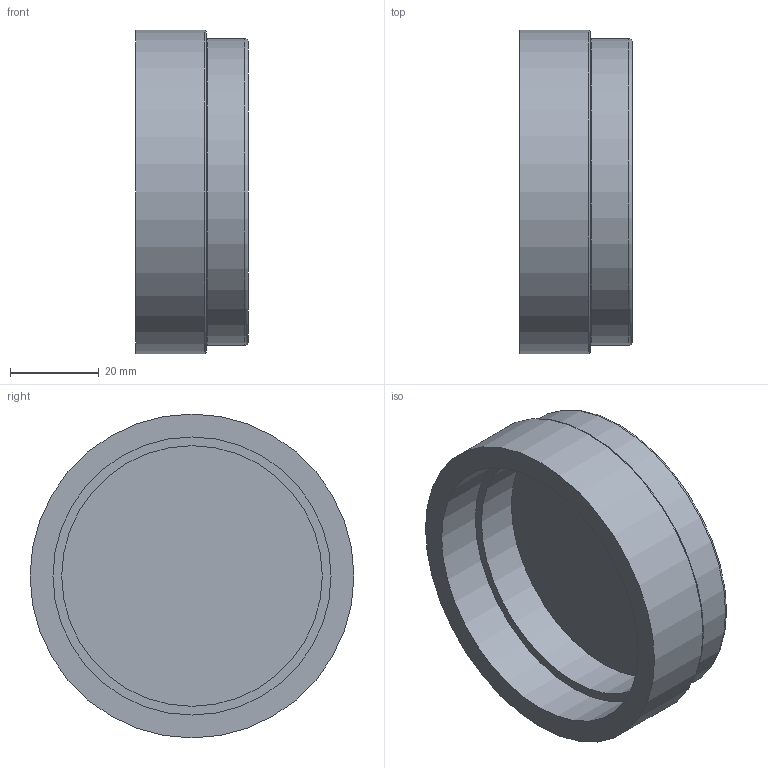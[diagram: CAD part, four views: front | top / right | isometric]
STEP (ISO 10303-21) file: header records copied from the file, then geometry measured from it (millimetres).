
FILE_DESCRIPTION(/* description */ ('VIC SS CAP No 460DX (OGS)'),/* implementation_level */ '2;1');
FILE_NAME(/* name */ 'C:\Files for Export\SS Duplex\STEP\Victaulic_SS-OGS_Cap_No 460DX (OGS)\Victaulic_SS-OGS_Cap_No 460DX (OGS)_2.5 (65).stp',/* time_stamp */ '2024-08-28T10:35:54+02:00',/* author */ ('CORINNE GRAY'),/* organization */ ('Victaulic'),/* preprocessor_version */ 'ST-DEVELOPER v18.1',/* originating_system */ 'Autodesk Inventor 2020',/* authorisation */ '');
FILE_SCHEMA (('AUTOMOTIVE_DESIGN { 1 0 10303 214 3 1 1 }'));
Length unit declared in the file: inch
Products named in the file (1): 460DX-02.5
Bounding box: 25.4 x 73.03 x 73.03 mm (x, y, z)
Volume: 43216.5 mm3; surface area: 17812.2 mm2
Topology: 1 solids, 1 shells, 12 faces, 32 edges, 25 vertices
Faces by surface type: plane 5, cylinder 4, torus 3
Full cylindrical faces by diameter (mm): 58.776 x1, 62.713 x1, 69.088 x1, 73.025 x1
Entity records: 467 total; most frequent: DIRECTION 86, CARTESIAN_POINT 70, ORIENTED_EDGE 64, AXIS2_PLACEMENT_3D 41, EDGE_CURVE 32, CIRCLE 28, VERTEX_POINT 25, EDGE_LOOP 15
